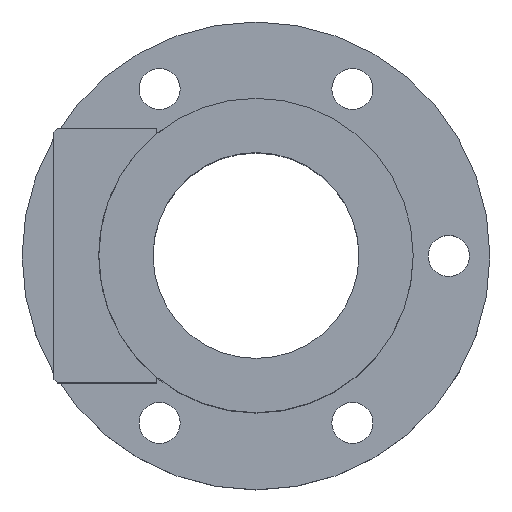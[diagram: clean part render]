
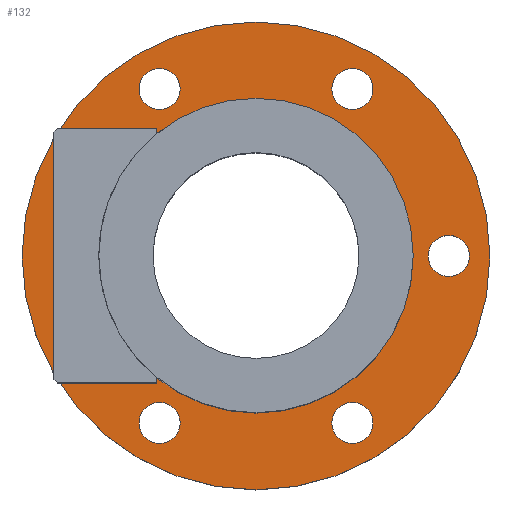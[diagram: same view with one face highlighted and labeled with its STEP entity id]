
A CAD part, top view. The second image highlights one B-rep face of the part: STEP entity #132.
In plain terms, the highlighted planar face has unit normal (0, 0, 1).
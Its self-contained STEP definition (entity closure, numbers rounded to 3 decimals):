
#97=PLANE('',#557);
#114=FACE_OUTER_BOUND('',#269,.T.);
#132=ADVANCED_FACE('',(#221,#222,#223,#114,#224,#225,#226),#97,.T.);
#221=FACE_BOUND('',#266,.T.);
#222=FACE_BOUND('',#267,.T.);
#223=FACE_BOUND('',#268,.T.);
#224=FACE_BOUND('',#270,.T.);
#225=FACE_BOUND('',#271,.T.);
#226=FACE_BOUND('',#272,.T.);
#266=EDGE_LOOP('',(#331));
#267=EDGE_LOOP('',(#332));
#268=EDGE_LOOP('',(#333));
#269=EDGE_LOOP('',(#334));
#270=EDGE_LOOP('',(#335));
#271=EDGE_LOOP('',(#336));
#272=EDGE_LOOP('',(#337));
#331=ORIENTED_EDGE('',*,*,#473,.F.);
#332=ORIENTED_EDGE('',*,*,#474,.F.);
#333=ORIENTED_EDGE('',*,*,#468,.F.);
#334=ORIENTED_EDGE('',*,*,#475,.T.);
#335=ORIENTED_EDGE('',*,*,#476,.F.);
#336=ORIENTED_EDGE('',*,*,#477,.F.);
#337=ORIENTED_EDGE('',*,*,#478,.F.);
#426=VERTEX_POINT('',#748);
#431=VERTEX_POINT('',#759);
#432=VERTEX_POINT('',#761);
#433=VERTEX_POINT('',#763);
#434=VERTEX_POINT('',#765);
#435=VERTEX_POINT('',#767);
#436=VERTEX_POINT('',#769);
#468=EDGE_CURVE('',#426,#426,#518,.T.);
#473=EDGE_CURVE('',#431,#431,#521,.T.);
#474=EDGE_CURVE('',#432,#432,#522,.T.);
#475=EDGE_CURVE('',#433,#433,#523,.T.);
#476=EDGE_CURVE('',#434,#434,#524,.T.);
#477=EDGE_CURVE('',#435,#435,#525,.T.);
#478=EDGE_CURVE('',#436,#436,#526,.T.);
#518=CIRCLE('',#547,42.);
#521=CIRCLE('',#551,5.5);
#522=CIRCLE('',#552,5.5);
#523=CIRCLE('',#553,62.5);
#524=CIRCLE('',#554,5.5);
#525=CIRCLE('',#555,5.5);
#526=CIRCLE('',#556,5.5);
#547=AXIS2_PLACEMENT_3D('',#747,#608,#609);
#551=AXIS2_PLACEMENT_3D('',#758,#618,#619);
#552=AXIS2_PLACEMENT_3D('',#760,#620,#621);
#553=AXIS2_PLACEMENT_3D('',#762,#622,#623);
#554=AXIS2_PLACEMENT_3D('',#764,#624,#625);
#555=AXIS2_PLACEMENT_3D('',#766,#626,#627);
#556=AXIS2_PLACEMENT_3D('',#768,#628,#629);
#557=AXIS2_PLACEMENT_3D('',#770,#630,#631);
#608=DIRECTION('',(0.,0.,1.));
#609=DIRECTION('',(1.,0.,0.));
#618=DIRECTION('',(0.,0.,1.));
#619=DIRECTION('',(-0.5,-0.866,0.));
#620=DIRECTION('',(0.,0.,1.));
#621=DIRECTION('',(0.5,0.866,0.));
#622=DIRECTION('',(0.,0.,1.));
#623=DIRECTION('',(1.,0.,0.));
#624=DIRECTION('',(0.,0.,1.));
#625=DIRECTION('',(1.,0.,0.));
#626=DIRECTION('',(0.,0.,1.));
#627=DIRECTION('',(-1.,0.,0.));
#628=DIRECTION('',(0.,0.,1.));
#629=DIRECTION('',(0.5,-0.866,0.));
#630=DIRECTION('',(0.,0.,1.));
#631=DIRECTION('',(1.,0.,0.));
#747=CARTESIAN_POINT('',(0.,0.,18.));
#748=CARTESIAN_POINT('',(42.,0.,18.));
#758=CARTESIAN_POINT('',(25.75,-44.6,18.));
#759=CARTESIAN_POINT('',(23.,-49.363,18.));
#760=CARTESIAN_POINT('',(-25.75,44.6,18.));
#761=CARTESIAN_POINT('',(-23.,49.363,18.));
#762=CARTESIAN_POINT('',(0.,0.,18.));
#763=CARTESIAN_POINT('',(62.5,0.,18.));
#764=CARTESIAN_POINT('',(25.75,44.6,18.));
#765=CARTESIAN_POINT('',(31.25,44.6,18.));
#766=CARTESIAN_POINT('',(-25.75,-44.6,18.));
#767=CARTESIAN_POINT('',(-31.25,-44.6,18.));
#768=CARTESIAN_POINT('',(51.5,0.,18.));
#769=CARTESIAN_POINT('',(54.25,-4.763,18.));
#770=CARTESIAN_POINT('',(0.,0.,18.));
